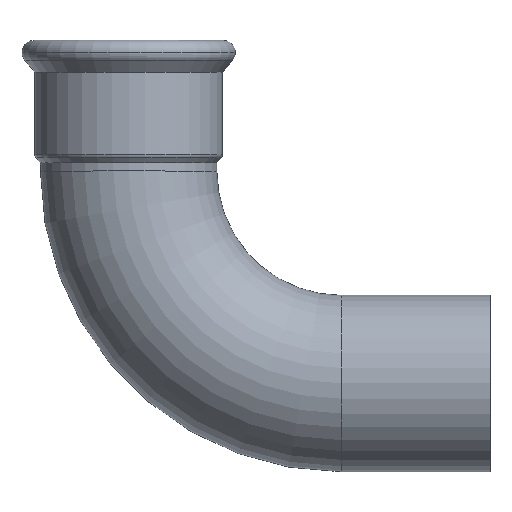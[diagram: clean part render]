
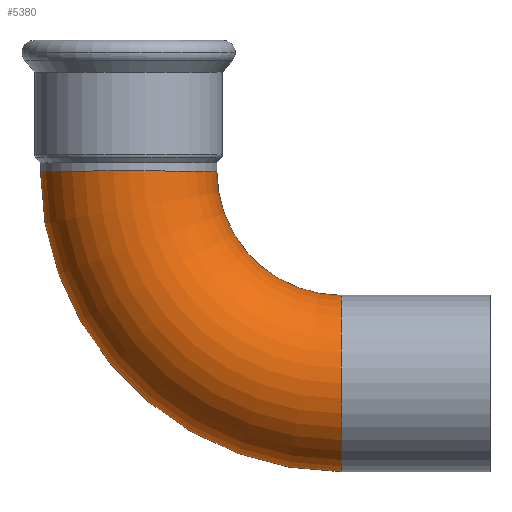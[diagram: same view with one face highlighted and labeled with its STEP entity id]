
A CAD part, top view. The second image highlights one B-rep face of the part: STEP entity #5380.
In plain terms, the highlighted toroidal (fillet/blend) face has major radius 65 mm and minor radius 27 mm.
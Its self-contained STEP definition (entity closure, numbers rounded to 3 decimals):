
#4540=CARTESIAN_POINT('',(3.344,191.195,0.));
#4550=VERTEX_POINT('',#4540);
#4640=CARTESIAN_POINT('',(57.344,191.195,
0.));
#4650=VERTEX_POINT('',#4640);
#4680=CARTESIAN_POINT('',(30.344,191.195,0.));
#4690=DIRECTION('',(0.,-1.,0.));
#4700=DIRECTION('',(-1.,0.,0.));
#4710=AXIS2_PLACEMENT_3D('',#4680,#4690,#4700);
#4720=CIRCLE('',#4710,27.);
#4730=EDGE_CURVE('',#4650,#4550,#4720,.T.);
#4870=CARTESIAN_POINT('',(95.344,153.195,
0.));
#4880=VERTEX_POINT('',#4870);
#4910=CARTESIAN_POINT('',(95.344,126.195,0.));
#4920=DIRECTION('',(1.,0.,0.));
#4930=DIRECTION('',(0.,-1.,0.));
#4940=AXIS2_PLACEMENT_3D('',#4910,#4920,#4930);
#4950=CIRCLE('',#4940,27.);
#4960=CARTESIAN_POINT('',(95.344,99.195,0.));
#4970=VERTEX_POINT('',#4960);
#5100=CARTESIAN_POINT('',(95.344,191.195,0.));
#5110=DIRECTION('',(0.,0.,1.));
#5120=DIRECTION('',(-1.,0.,0.));
#5130=AXIS2_PLACEMENT_3D('',#5100,#5110,#5120);
#5140=TOROIDAL_SURFACE('',#5130,65.,27.);
#5150=CARTESIAN_POINT('',(95.344,126.195,27.));
#5160=VERTEX_POINT('',#5150);
#5170=EDGE_CURVE('',#5160,#4970,#4950,.T.);
#5180=ORIENTED_EDGE('',*,*,#5170,.F.);
#5190=CARTESIAN_POINT('',(95.344,191.195,
0.));
#5200=DIRECTION('',(0.,0.,1.));
#5210=DIRECTION('',(-1.,0.,0.));
#5220=AXIS2_PLACEMENT_3D('',#5190,#5200,#5210);
#5230=CIRCLE('',#5220,92.);
#5240=EDGE_CURVE('',#4550,#4970,#5230,.T.);
#5250=ORIENTED_EDGE('',*,*,#5240,.T.);
#5260=ORIENTED_EDGE('',*,*,#4730,.T.);
#5270=CARTESIAN_POINT('',(95.344,191.195,
0.));
#5280=DIRECTION('',(0.,0.,1.));
#5290=DIRECTION('',(-1.,0.,0.));
#5300=AXIS2_PLACEMENT_3D('',#5270,#5280,#5290);
#5310=CIRCLE('',#5300,38.);
#5320=EDGE_CURVE('',#4650,#4880,#5310,.T.);
#5330=ORIENTED_EDGE('',*,*,#5320,.F.);
#5340=EDGE_CURVE('',#4880,#5160,#4950,.T.);
#5350=ORIENTED_EDGE('',*,*,#5340,.F.);
#5360=EDGE_LOOP('',(#5350,#5330,#5260,#5250,#5180));
#5370=FACE_OUTER_BOUND('',#5360,.T.);
#5380=ADVANCED_FACE('',(#5370),#5140,.T.);
